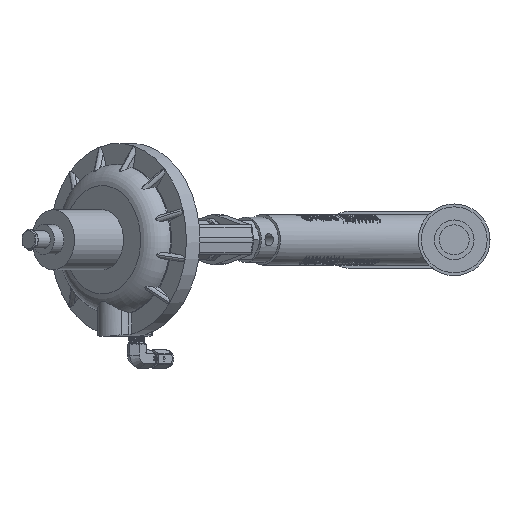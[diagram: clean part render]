
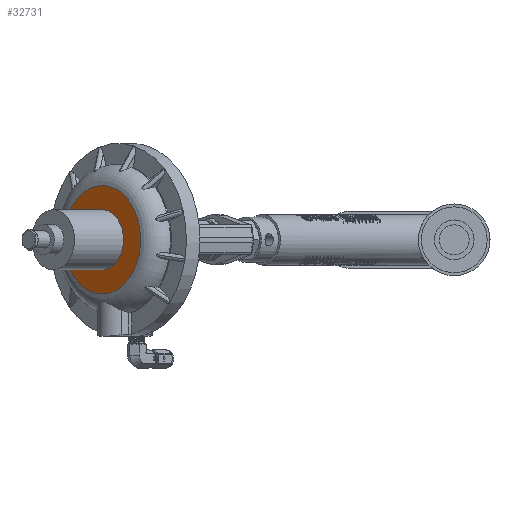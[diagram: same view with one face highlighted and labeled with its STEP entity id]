
A CAD part, left-side view. The second image highlights one B-rep face of the part: STEP entity #32731.
In plain terms, the highlighted planar face has unit normal (-0.707, 0.707, 0).
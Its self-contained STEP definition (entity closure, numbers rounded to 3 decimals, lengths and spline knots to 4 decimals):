
#242 = DIRECTION ( 'NONE',  ( 0.447, 0.447, -0.775 ) ) ;
#1901 = EDGE_CURVE ( 'NONE', #60036, #60036, #3626, .T. ) ;
#3110 = DIRECTION ( 'NONE',  ( 0.548, 0.548, 0.632 ) ) ;
#3626 = CIRCLE ( 'NONE', #13936, 1.8 ) ;
#8734 = ORIENTED_EDGE ( 'NONE', *, *, #67650, .T. ) ;
#10847 = CARTESIAN_POINT ( 'NONE',  ( -3.6932, 12.6659, 1.1377 ) ) ;
#13179 = DIRECTION ( 'NONE',  ( 0.707, -0.707, 0. ) ) ;
#13936 = AXIS2_PLACEMENT_3D ( 'NONE', #41897, #42593, #3110 ) ;
#16223 = AXIS2_PLACEMENT_3D ( 'NONE', #25028, #13179, #35110 ) ;
#17465 = PLANE ( 'NONE',  #68569 ) ;
#21149 = EDGE_LOOP ( 'NONE', ( #8734 ) ) ;
#25028 = CARTESIAN_POINT ( 'NONE',  ( -4.6795, 11.6795, 0. ) ) ;
#28254 = FACE_BOUND ( 'NONE', #21149, .T. ) ;
#32731 = ADVANCED_FACE ( 'NONE', ( #28254, #60941 ), #17465, .T. ) ;
#35110 = DIRECTION ( 'NONE',  ( 0.548, 0.548, 0.632 ) ) ;
#41897 = CARTESIAN_POINT ( 'NONE',  ( -4.6795, 11.6795, 0. ) ) ;
#42593 = DIRECTION ( 'NONE',  ( 0.707, -0.707, 0. ) ) ;
#44607 = EDGE_LOOP ( 'NONE', ( #63690 ) ) ;
#45417 = CARTESIAN_POINT ( 'NONE',  ( -4.1316, 12.2275, 0.632 ) ) ;
#45765 = VERTEX_POINT ( 'NONE', #45417 ) ;
#50157 = DIRECTION ( 'NONE',  ( -0.707, 0.707, 0. ) ) ;
#50505 = CARTESIAN_POINT ( 'NONE',  ( -4.6795, 11.6795, 0. ) ) ;
#60036 = VERTEX_POINT ( 'NONE', #10847 ) ;
#60941 = FACE_OUTER_BOUND ( 'NONE', #44607, .T. ) ;
#63268 = CIRCLE ( 'NONE', #16223, 1. ) ;
#63690 = ORIENTED_EDGE ( 'NONE', *, *, #1901, .F. ) ;
#67650 = EDGE_CURVE ( 'NONE', #45765, #45765, #63268, .T. ) ;
#68569 = AXIS2_PLACEMENT_3D ( 'NONE', #50505, #50157, #242 ) ;
